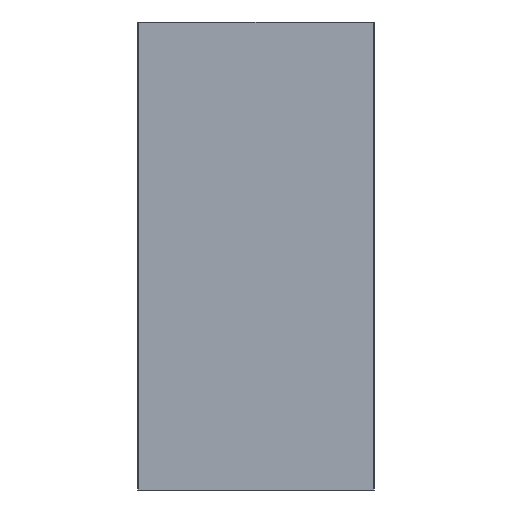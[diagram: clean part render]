
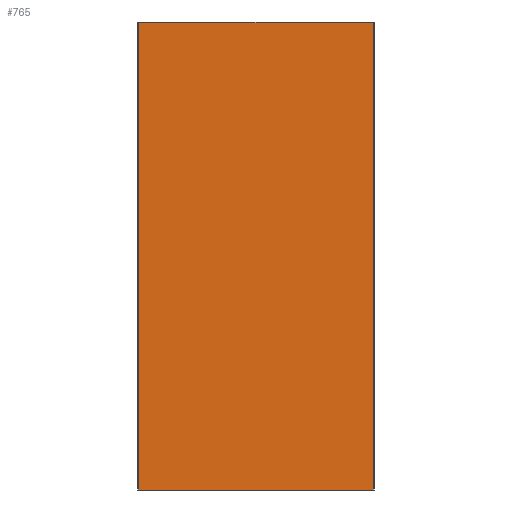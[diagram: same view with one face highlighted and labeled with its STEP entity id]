
A CAD part, left-side view. The second image highlights one B-rep face of the part: STEP entity #765.
In plain terms, the highlighted planar face has unit normal (-1, 0, 0).
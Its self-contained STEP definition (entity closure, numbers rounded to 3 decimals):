
#765=ADVANCED_FACE('',(#1048),#929,.F.);
#929=PLANE('',#4004);
#1048=FACE_OUTER_BOUND('',#1303,.T.);
#1303=EDGE_LOOP('',(#2051,#2052,#2053,#2054));
#2051=ORIENTED_EDGE('',*,*,#3310,.T.);
#2052=ORIENTED_EDGE('',*,*,#3311,.T.);
#2053=ORIENTED_EDGE('',*,*,#3312,.T.);
#2054=ORIENTED_EDGE('',*,*,#2996,.F.);
#2658=VERTEX_POINT('',#5337);
#2659=VERTEX_POINT('',#5338);
#2882=VERTEX_POINT('',#15436);
#2883=VERTEX_POINT('',#15438);
#2996=EDGE_CURVE('',#2658,#2659,#3525,.T.);
#3310=EDGE_CURVE('',#2658,#2882,#3614,.T.);
#3311=EDGE_CURVE('',#2882,#2883,#3615,.T.);
#3312=EDGE_CURVE('',#2883,#2659,#3616,.T.);
#3525=LINE('',#5336,#3663);
#3614=LINE('',#15435,#3752);
#3615=LINE('',#15437,#3753);
#3616=LINE('',#15439,#3754);
#3663=VECTOR('',#4240,1.);
#3752=VECTOR('',#4697,1.);
#3753=VECTOR('',#4698,1.);
#3754=VECTOR('',#4699,1.);
#4004=AXIS2_PLACEMENT_3D('',#15440,#4700,#4701);
#4240=DIRECTION('',(0.,1.,0.));
#4697=DIRECTION('',(0.,0.,1.));
#4698=DIRECTION('',(0.,1.,0.));
#4699=DIRECTION('',(0.,0.,-1.));
#4700=DIRECTION('',(1.,0.,0.));
#4701=DIRECTION('',(0.,1.,0.));
#5336=CARTESIAN_POINT('',(-220.,-210.,-870.));
#5337=CARTESIAN_POINT('',(-220.,-208.,-870.));
#5338=CARTESIAN_POINT('',(-220.,228.,-870.));
#15435=CARTESIAN_POINT('',(-220.,-208.,-10.));
#15436=CARTESIAN_POINT('',(-220.,-208.,-1.));
#15437=CARTESIAN_POINT('',(-220.,228.,-1.));
#15438=CARTESIAN_POINT('',(-220.,228.,-1.));
#15439=CARTESIAN_POINT('',(-220.,228.,-10.));
#15440=CARTESIAN_POINT('',(-220.,-210.,-10.));
